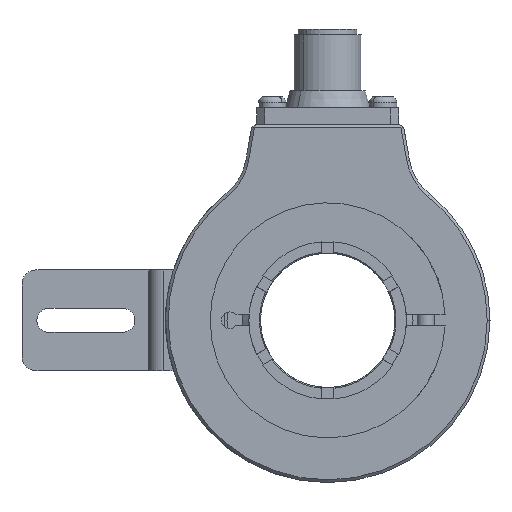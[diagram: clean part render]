
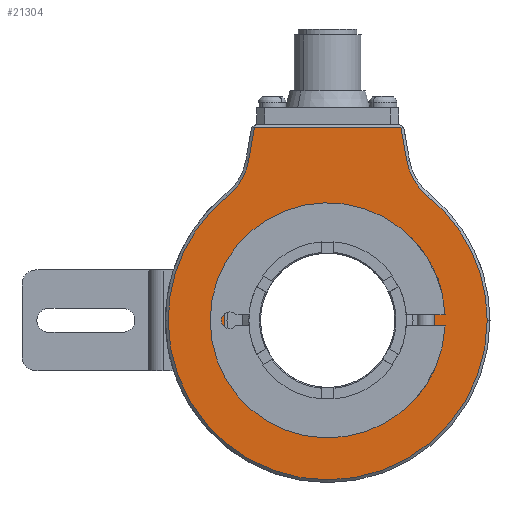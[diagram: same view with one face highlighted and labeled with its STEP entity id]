
A CAD part, left-side view. The second image highlights one B-rep face of the part: STEP entity #21304.
In plain terms, the highlighted planar face has unit normal (-1, 0, 0).
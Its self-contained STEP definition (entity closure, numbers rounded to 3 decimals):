
#136 = VERTEX_POINT ( 'NONE', #7450 ) ;
#326 = VECTOR ( 'NONE', #13064, 1000. ) ;
#826 = EDGE_CURVE ( 'NONE', #10709, #2052, #9599, .T. ) ;
#952 = CARTESIAN_POINT ( 'NONE',  ( -27., 18.5, 0. ) ) ;
#973 = ORIENTED_EDGE ( 'NONE', *, *, #13786, .T. ) ;
#1081 = AXIS2_PLACEMENT_3D ( 'NONE', #7094, #9200, #14417 ) ;
#1082 = EDGE_CURVE ( 'NONE', #7514, #17459, #22556, .T. ) ;
#1134 = CIRCLE ( 'NONE', #16326, 18.5 ) ;
#1462 = CARTESIAN_POINT ( 'NONE',  ( -27., 29., 0. ) ) ;
#1543 = ORIENTED_EDGE ( 'NONE', *, *, #3196, .T. ) ;
#1723 = EDGE_CURVE ( 'NONE', #13716, #10709, #2860, .T. ) ;
#1896 = CARTESIAN_POINT ( 'NONE',  ( -27., 0., 0. ) ) ;
#1913 = FACE_OUTER_BOUND ( 'NONE', #19740, .T. ) ;
#2052 = VERTEX_POINT ( 'NONE', #12686 ) ;
#2860 = LINE ( 'NONE', #13182, #326 ) ;
#3196 = EDGE_CURVE ( 'NONE', #13488, #4272, #20275, .T. ) ;
#3449 = ORIENTED_EDGE ( 'NONE', *, *, #16622, .T. ) ;
#3512 = CARTESIAN_POINT ( 'NONE',  ( -27., 14.131, 28.544 ) ) ;
#3887 = DIRECTION ( 'NONE',  ( -1., 0., 0. ) ) ;
#3910 = ORIENTED_EDGE ( 'NONE', *, *, #826, .T. ) ;
#4272 = VERTEX_POINT ( 'NONE', #7137 ) ;
#4395 = ORIENTED_EDGE ( 'NONE', *, *, #18912, .T. ) ;
#4466 = EDGE_CURVE ( 'NONE', #7763, #6722, #19155, .T. ) ;
#4681 = AXIS2_PLACEMENT_3D ( 'NONE', #1462, #8542, #15636 ) ;
#4833 = DIRECTION ( 'NONE',  ( 0., 1., 0. ) ) ;
#4935 = FACE_BOUND ( 'NONE', #21050, .T. ) ;
#5632 = LINE ( 'NONE', #18085, #21068 ) ;
#6495 = AXIS2_PLACEMENT_3D ( 'NONE', #1896, #8975, #12805 ) ;
#6564 = DIRECTION ( 'NONE',  ( 0., -1., 0. ) ) ;
#6722 = VERTEX_POINT ( 'NONE', #17683 ) ;
#7094 = CARTESIAN_POINT ( 'NONE',  ( -27., 0., 0. ) ) ;
#7137 = CARTESIAN_POINT ( 'NONE',  ( -27., -14.131, 28.544 ) ) ;
#7384 = DIRECTION ( 'NONE',  ( 0., 0.174, 0.985 ) ) ;
#7450 = CARTESIAN_POINT ( 'NONE',  ( -27., -13.08, 34.5 ) ) ;
#7514 = VERTEX_POINT ( 'NONE', #17256 ) ;
#7763 = VERTEX_POINT ( 'NONE', #11314 ) ;
#7870 = ORIENTED_EDGE ( 'NONE', *, *, #20046, .T. ) ;
#8542 = DIRECTION ( 'NONE',  ( -1., 0., 0. ) ) ;
#8975 = DIRECTION ( 'NONE',  ( -1., 0., 0. ) ) ;
#9200 = DIRECTION ( 'NONE',  ( 1., 0., 0. ) ) ;
#9599 = CIRCLE ( 'NONE', #14798, 10.5 ) ;
#9808 = DIRECTION ( 'NONE',  ( -1., 0., 0. ) ) ;
#10270 = AXIS2_PLACEMENT_3D ( 'NONE', #17544, #14273, #21004 ) ;
#10288 = PLANE ( 'NONE',  #4681 ) ;
#10428 = CARTESIAN_POINT ( 'NONE',  ( -27., 29., 34.5 ) ) ;
#10658 = LINE ( 'NONE', #10428, #19063 ) ;
#10709 = VERTEX_POINT ( 'NONE', #3512 ) ;
#10997 = AXIS2_PLACEMENT_3D ( 'NONE', #22434, #9808, #6564 ) ;
#11116 = EDGE_CURVE ( 'NONE', #4272, #136, #5632, .T. ) ;
#11314 = CARTESIAN_POINT ( 'NONE',  ( -27., 28.5, 0. ) ) ;
#11686 = CIRCLE ( 'NONE', #6495, 28.5 ) ;
#11736 = CARTESIAN_POINT ( 'NONE',  ( -27., 24.471, 30.367 ) ) ;
#11933 = CARTESIAN_POINT ( 'NONE',  ( -27., 0., 0. ) ) ;
#12012 = CIRCLE ( 'NONE', #19783, 28.5 ) ;
#12686 = CARTESIAN_POINT ( 'NONE',  ( -27., 17.883, 22.191 ) ) ;
#12805 = DIRECTION ( 'NONE',  ( 0., -1., 0. ) ) ;
#13064 = DIRECTION ( 'NONE',  ( 0., 0.174, -0.985 ) ) ;
#13110 = DIRECTION ( 'NONE',  ( 1., 0., 0. ) ) ;
#13182 = CARTESIAN_POINT ( 'NONE',  ( -27., 19.46, -1.682 ) ) ;
#13235 = DIRECTION ( 'NONE',  ( 0., -1., 0. ) ) ;
#13488 = VERTEX_POINT ( 'NONE', #16721 ) ;
#13716 = VERTEX_POINT ( 'NONE', #15892 ) ;
#13786 = EDGE_CURVE ( 'NONE', #136, #13716, #10658, .T. ) ;
#14273 = DIRECTION ( 'NONE',  ( 1., 0., 0. ) ) ;
#14417 = DIRECTION ( 'NONE',  ( 0., 1., 0. ) ) ;
#14798 = AXIS2_PLACEMENT_3D ( 'NONE', #11736, #13110, #13235 ) ;
#15443 = ORIENTED_EDGE ( 'NONE', *, *, #1723, .T. ) ;
#15636 = DIRECTION ( 'NONE',  ( 0., -1., 0. ) ) ;
#15892 = CARTESIAN_POINT ( 'NONE',  ( -27., 13.08, 34.5 ) ) ;
#16326 = AXIS2_PLACEMENT_3D ( 'NONE', #11933, #22574, #4833 ) ;
#16622 = EDGE_CURVE ( 'NONE', #17459, #7514, #1134, .T. ) ;
#16721 = CARTESIAN_POINT ( 'NONE',  ( -27., -17.883, 22.191 ) ) ;
#17256 = CARTESIAN_POINT ( 'NONE',  ( -27., -18.5, 0. ) ) ;
#17389 = ORIENTED_EDGE ( 'NONE', *, *, #4466, .T. ) ;
#17459 = VERTEX_POINT ( 'NONE', #952 ) ;
#17544 = CARTESIAN_POINT ( 'NONE',  ( -27., -24.471, 30.367 ) ) ;
#17683 = CARTESIAN_POINT ( 'NONE',  ( -27., -28.5, 0. ) ) ;
#17863 = ORIENTED_EDGE ( 'NONE', *, *, #1082, .T. ) ;
#18074 = DIRECTION ( 'NONE',  ( 0., -1., 0. ) ) ;
#18085 = CARTESIAN_POINT ( 'NONE',  ( -27., -17.711, 8.236 ) ) ;
#18912 = EDGE_CURVE ( 'NONE', #6722, #13488, #12012, .T. ) ;
#19063 = VECTOR ( 'NONE', #19595, 1000. ) ;
#19155 = CIRCLE ( 'NONE', #10997, 28.5 ) ;
#19595 = DIRECTION ( 'NONE',  ( 0., 1., 0. ) ) ;
#19740 = EDGE_LOOP ( 'NONE', ( #20878, #973, #15443, #3910, #7870, #17389, #4395, #1543 ) ) ;
#19783 = AXIS2_PLACEMENT_3D ( 'NONE', #21410, #3887, #18074 ) ;
#20046 = EDGE_CURVE ( 'NONE', #2052, #7763, #11686, .T. ) ;
#20275 = CIRCLE ( 'NONE', #10270, 10.5 ) ;
#20878 = ORIENTED_EDGE ( 'NONE', *, *, #11116, .T. ) ;
#21004 = DIRECTION ( 'NONE',  ( 0., -1., 0. ) ) ;
#21050 = EDGE_LOOP ( 'NONE', ( #3449, #17863 ) ) ;
#21068 = VECTOR ( 'NONE', #7384, 1000. ) ;
#21304 = ADVANCED_FACE ( 'NONE', ( #1913, #4935 ), #10288, .T. ) ;
#21410 = CARTESIAN_POINT ( 'NONE',  ( -27., 0., 0. ) ) ;
#22434 = CARTESIAN_POINT ( 'NONE',  ( -27., 0., 0. ) ) ;
#22556 = CIRCLE ( 'NONE', #1081, 18.5 ) ;
#22574 = DIRECTION ( 'NONE',  ( 1., 0., 0. ) ) ;
